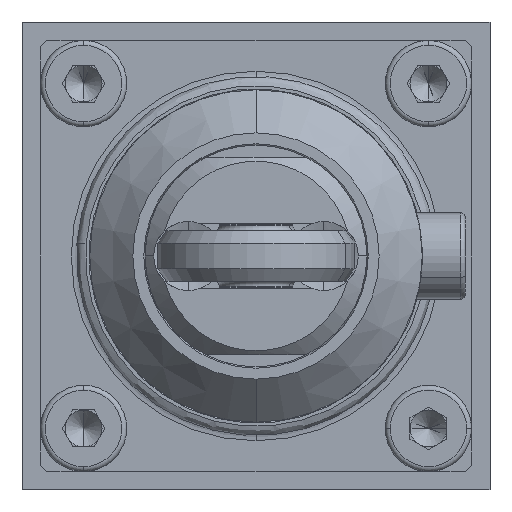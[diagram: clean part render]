
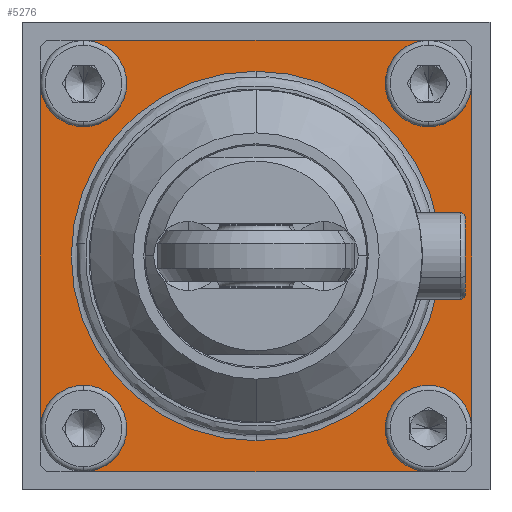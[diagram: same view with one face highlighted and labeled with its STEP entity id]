
A CAD part, left-side view. The second image highlights one B-rep face of the part: STEP entity #5276.
In plain terms, the highlighted planar face has unit normal (-1, 0, 0).
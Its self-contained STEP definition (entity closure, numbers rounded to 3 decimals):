
#252 = PLANE ( 'NONE',  #2992 ) ;
#339 = ORIENTED_EDGE ( 'NONE', *, *, #11759, .F. ) ;
#372 = AXIS2_PLACEMENT_3D ( 'NONE', #14002, #19767, #8470 ) ;
#445 = DIRECTION ( 'NONE',  ( 0., 0., -1. ) ) ;
#604 = DIRECTION ( 'NONE',  ( 0., 0., -1. ) ) ;
#707 = VERTEX_POINT ( 'NONE', #13497 ) ;
#1035 = DIRECTION ( 'NONE',  ( -1., 0., 0. ) ) ;
#1379 = EDGE_CURVE ( 'NONE', #13783, #17780, #14689, .T. ) ;
#1406 = VECTOR ( 'NONE', #4231, 1000. ) ;
#1432 = CARTESIAN_POINT ( 'NONE',  ( -12., -14., 14. ) ) ;
#1643 = DIRECTION ( 'NONE',  ( 0., 0., 1. ) ) ;
#1720 = DIRECTION ( 'NONE',  ( 1., 0., 0. ) ) ;
#1736 = CARTESIAN_POINT ( 'NONE',  ( -12., -14., 10.5 ) ) ;
#1945 = DIRECTION ( 'NONE',  ( 0., 0., 1. ) ) ;
#2102 = DIRECTION ( 'NONE',  ( -1., 0., 0. ) ) ;
#2431 = DIRECTION ( 'NONE',  ( -1., 0., 0. ) ) ;
#2492 = DIRECTION ( 'NONE',  ( 1., 0., 0. ) ) ;
#2618 = CIRCLE ( 'NONE', #11877, 3.5 ) ;
#2794 = VERTEX_POINT ( 'NONE', #8537 ) ;
#2804 = CARTESIAN_POINT ( 'NONE',  ( -12., 17.5, 0. ) ) ;
#2843 = AXIS2_PLACEMENT_3D ( 'NONE', #14633, #1720, #14723 ) ;
#2992 = AXIS2_PLACEMENT_3D ( 'NONE', #23016, #2492, #13674 ) ;
#3018 = CIRCLE ( 'NONE', #21113, 3.5 ) ;
#4044 = EDGE_CURVE ( 'NONE', #12033, #707, #18989, .T. ) ;
#4231 = DIRECTION ( 'NONE',  ( 0., 1., 0. ) ) ;
#4321 = DIRECTION ( 'NONE',  ( -1., 0., 0. ) ) ;
#4389 = CARTESIAN_POINT ( 'NONE',  ( -12., -14., 17.5 ) ) ;
#4670 = CARTESIAN_POINT ( 'NONE',  ( -12., 14., -14. ) ) ;
#5172 = DIRECTION ( 'NONE',  ( 0., 0., 1. ) ) ;
#5276 = ADVANCED_FACE ( 'NONE', ( #20333, #14732 ), #252, .F. ) ;
#5522 = VERTEX_POINT ( 'NONE', #1736 ) ;
#5767 = ORIENTED_EDGE ( 'NONE', *, *, #24311, .F. ) ;
#5820 = CIRCLE ( 'NONE', #18852, 15. ) ;
#5868 = ORIENTED_EDGE ( 'NONE', *, *, #21965, .F. ) ;
#5874 = VERTEX_POINT ( 'NONE', #8194 ) ;
#6159 = EDGE_LOOP ( 'NONE', ( #7517, #17498 ) ) ;
#6834 = ORIENTED_EDGE ( 'NONE', *, *, #11910, .F. ) ;
#7091 = DIRECTION ( 'NONE',  ( 0., 0., 1. ) ) ;
#7517 = ORIENTED_EDGE ( 'NONE', *, *, #15093, .T. ) ;
#7653 = CARTESIAN_POINT ( 'NONE',  ( -12., -17.5, 14. ) ) ;
#7673 = VECTOR ( 'NONE', #23220, 1000. ) ;
#7981 = VERTEX_POINT ( 'NONE', #12098 ) ;
#8194 = CARTESIAN_POINT ( 'NONE',  ( -12., 14., 17.5 ) ) ;
#8470 = DIRECTION ( 'NONE',  ( 0., -1., 0. ) ) ;
#8537 = CARTESIAN_POINT ( 'NONE',  ( -12., -10.5, -14. ) ) ;
#9349 = DIRECTION ( 'NONE',  ( -1., 0., 0. ) ) ;
#9390 = ORIENTED_EDGE ( 'NONE', *, *, #12149, .F. ) ;
#9861 = CARTESIAN_POINT ( 'NONE',  ( -12., 17.5, 14. ) ) ;
#9893 = DIRECTION ( 'NONE',  ( 0., -1., 0. ) ) ;
#9980 = CIRCLE ( 'NONE', #19570, 3.5 ) ;
#10093 = CARTESIAN_POINT ( 'NONE',  ( -12., -13.5, 17.5 ) ) ;
#10300 = CIRCLE ( 'NONE', #18295, 3.5 ) ;
#10391 = CARTESIAN_POINT ( 'NONE',  ( -12., 17.5, -14. ) ) ;
#10569 = VECTOR ( 'NONE', #19867, 1000. ) ;
#10810 = EDGE_CURVE ( 'NONE', #7981, #24325, #21526, .T. ) ;
#11383 = VECTOR ( 'NONE', #16142, 1000. ) ;
#11759 = EDGE_CURVE ( 'NONE', #17780, #16299, #9980, .T. ) ;
#11877 = AXIS2_PLACEMENT_3D ( 'NONE', #1432, #18389, #7091 ) ;
#11910 = EDGE_CURVE ( 'NONE', #5522, #12033, #2618, .T. ) ;
#12033 = VERTEX_POINT ( 'NONE', #7653 ) ;
#12098 = CARTESIAN_POINT ( 'NONE',  ( -12., 14., -17.5 ) ) ;
#12149 = EDGE_CURVE ( 'NONE', #15144, #7981, #14962, .T. ) ;
#12225 = CIRCLE ( 'NONE', #18467, 3.5 ) ;
#12475 = CARTESIAN_POINT ( 'NONE',  ( -12., 14., -10.5 ) ) ;
#12771 = CARTESIAN_POINT ( 'NONE',  ( -12., -17.5, 0. ) ) ;
#13015 = EDGE_CURVE ( 'NONE', #21717, #5522, #12225, .T. ) ;
#13039 = CIRCLE ( 'NONE', #2843, 15. ) ;
#13497 = CARTESIAN_POINT ( 'NONE',  ( -12., -17.5, -14. ) ) ;
#13535 = AXIS2_PLACEMENT_3D ( 'NONE', #19044, #2102, #445 ) ;
#13674 = DIRECTION ( 'NONE',  ( 0., 0., 1. ) ) ;
#13783 = VERTEX_POINT ( 'NONE', #10391 ) ;
#13811 = ORIENTED_EDGE ( 'NONE', *, *, #13015, .F. ) ;
#13879 = LINE ( 'NONE', #10093, #7673 ) ;
#14002 = CARTESIAN_POINT ( 'NONE',  ( -12., -14., -14. ) ) ;
#14268 = CARTESIAN_POINT ( 'NONE',  ( -12., 14., 14. ) ) ;
#14633 = CARTESIAN_POINT ( 'NONE',  ( -12., 0., 0. ) ) ;
#14689 = LINE ( 'NONE', #2804, #10569 ) ;
#14723 = DIRECTION ( 'NONE',  ( 0., 0., 1. ) ) ;
#14732 = FACE_BOUND ( 'NONE', #6159, .T. ) ;
#14738 = ORIENTED_EDGE ( 'NONE', *, *, #1379, .F. ) ;
#14962 = LINE ( 'NONE', #17457, #1406 ) ;
#14977 = CARTESIAN_POINT ( 'NONE',  ( -12., 14., 14. ) ) ;
#15093 = EDGE_CURVE ( 'NONE', #19434, #22348, #5820, .T. ) ;
#15144 = VERTEX_POINT ( 'NONE', #22094 ) ;
#16024 = EDGE_LOOP ( 'NONE', ( #339, #14738, #18994, #18725, #9390, #5767, #17653, #18068, #6834, #13811, #16126, #5868 ) ) ;
#16126 = ORIENTED_EDGE ( 'NONE', *, *, #16834, .F. ) ;
#16142 = DIRECTION ( 'NONE',  ( 0., 0., -1. ) ) ;
#16299 = VERTEX_POINT ( 'NONE', #22864 ) ;
#16409 = DIRECTION ( 'NONE',  ( 1., 0., 0. ) ) ;
#16834 = EDGE_CURVE ( 'NONE', #5874, #21717, #13879, .T. ) ;
#16880 = CIRCLE ( 'NONE', #372, 3.5 ) ;
#17283 = EDGE_CURVE ( 'NONE', #707, #2794, #10300, .T. ) ;
#17457 = CARTESIAN_POINT ( 'NONE',  ( -12., -13.5, -17.5 ) ) ;
#17498 = ORIENTED_EDGE ( 'NONE', *, *, #22004, .T. ) ;
#17653 = ORIENTED_EDGE ( 'NONE', *, *, #17283, .F. ) ;
#17780 = VERTEX_POINT ( 'NONE', #9861 ) ;
#17908 = DIRECTION ( 'NONE',  ( 0., 0., 1. ) ) ;
#18068 = ORIENTED_EDGE ( 'NONE', *, *, #4044, .F. ) ;
#18091 = CARTESIAN_POINT ( 'NONE',  ( -12., 0., -15. ) ) ;
#18132 = AXIS2_PLACEMENT_3D ( 'NONE', #4670, #2431, #604 ) ;
#18295 = AXIS2_PLACEMENT_3D ( 'NONE', #21015, #4321, #9893 ) ;
#18389 = DIRECTION ( 'NONE',  ( -1., 0., 0. ) ) ;
#18467 = AXIS2_PLACEMENT_3D ( 'NONE', #20714, #22419, #1945 ) ;
#18725 = ORIENTED_EDGE ( 'NONE', *, *, #10810, .F. ) ;
#18852 = AXIS2_PLACEMENT_3D ( 'NONE', #21939, #16409, #5172 ) ;
#18989 = LINE ( 'NONE', #12771, #11383 ) ;
#18994 = ORIENTED_EDGE ( 'NONE', *, *, #21235, .F. ) ;
#19044 = CARTESIAN_POINT ( 'NONE',  ( -12., 14., -14. ) ) ;
#19434 = VERTEX_POINT ( 'NONE', #22868 ) ;
#19570 = AXIS2_PLACEMENT_3D ( 'NONE', #14268, #1035, #17908 ) ;
#19767 = DIRECTION ( 'NONE',  ( -1., 0., 0. ) ) ;
#19867 = DIRECTION ( 'NONE',  ( 0., 0., 1. ) ) ;
#20333 = FACE_OUTER_BOUND ( 'NONE', #16024, .T. ) ;
#20714 = CARTESIAN_POINT ( 'NONE',  ( -12., -14., 14. ) ) ;
#21015 = CARTESIAN_POINT ( 'NONE',  ( -12., -14., -14. ) ) ;
#21113 = AXIS2_PLACEMENT_3D ( 'NONE', #14977, #9349, #1643 ) ;
#21235 = EDGE_CURVE ( 'NONE', #24325, #13783, #23677, .T. ) ;
#21526 = CIRCLE ( 'NONE', #18132, 3.5 ) ;
#21717 = VERTEX_POINT ( 'NONE', #4389 ) ;
#21939 = CARTESIAN_POINT ( 'NONE',  ( -12., 0., 0. ) ) ;
#21965 = EDGE_CURVE ( 'NONE', #16299, #5874, #3018, .T. ) ;
#22004 = EDGE_CURVE ( 'NONE', #22348, #19434, #13039, .T. ) ;
#22094 = CARTESIAN_POINT ( 'NONE',  ( -12., -14., -17.5 ) ) ;
#22348 = VERTEX_POINT ( 'NONE', #18091 ) ;
#22419 = DIRECTION ( 'NONE',  ( -1., 0., 0. ) ) ;
#22864 = CARTESIAN_POINT ( 'NONE',  ( -12., 14., 10.5 ) ) ;
#22868 = CARTESIAN_POINT ( 'NONE',  ( -12., 0., 15. ) ) ;
#23016 = CARTESIAN_POINT ( 'NONE',  ( -12., -13.5, 0. ) ) ;
#23220 = DIRECTION ( 'NONE',  ( 0., -1., 0. ) ) ;
#23677 = CIRCLE ( 'NONE', #13535, 3.5 ) ;
#24311 = EDGE_CURVE ( 'NONE', #2794, #15144, #16880, .T. ) ;
#24325 = VERTEX_POINT ( 'NONE', #12475 ) ;
